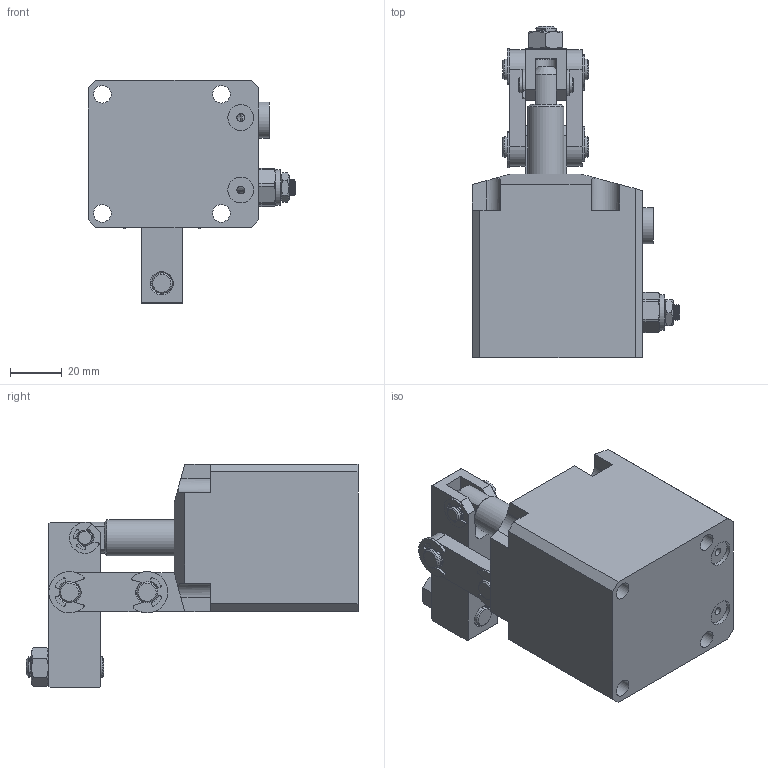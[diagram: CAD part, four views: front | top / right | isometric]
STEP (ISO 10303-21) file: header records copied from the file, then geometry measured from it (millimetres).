
FILE_DESCRIPTION(/* description */ ('STEP AP203'),/* implementation_level */ '2;1');
FILE_NAME(/* name */ 'D:\Vault_2016\Projekty\Clamptek\Hydraulic\CBLU\CBLU-35\STEP\CBLU-35CR.stp',/* time_stamp */ '2021-05-06T12:26:55+02:00',/* author */ ('user'),/* organization */ (''),/* preprocessor_version */ 'ST-DEVELOPER v18.1',/* originating_system */ 'Autodesk Inventor 2021',/* authorisation */ '');
FILE_SCHEMA (('AUTOMOTIVE_DESIGN { 1 0 10303 214 3 1 1 }'));
Length unit declared in the file: millimetre
Products named in the file (13): CBLU-35CR; ±¾ÌåCR_4; Áã¼þ2_1; »îÈû¸Ë_6_1; Á¬¸Ë_1; 35Ñ¹±Û; ¶ÌÏúÖá_1; ³¤ÏúÖá_1; e rings gb_GB_CONNECTING_PIECE_RINGS_HR 6_1; e rings gb_GB_CONNECTING_PIECE_RINGS_HR 8; hex nuts, style 1-grades ab gb_GB_FASTENER_NUT_SNAB1 M8-N; ÂÝË¿2; CZL10µ÷ËÙ·§_5
Assembly tree (18 placements, depth 2):
  CBLU-35CR
    ±¾ÌåCR_4
    Áã¼þ2_1
    »îÈû¸Ë_6_1
    Á¬¸Ë_1  x2
    35Ñ¹±Û
    ¶ÌÏúÖá_1
    ³¤ÏúÖá_1  x2
    e rings gb_GB_CONNECTING_PIECE_RINGS_HR 6_1  x2
    e rings gb_GB_CONNECTING_PIECE_RINGS_HR 8  x4
    hex nuts, style 1-grades ab gb_GB_FASTENER_NUT_SNAB1 M8-N
    ÂÝË¿2
    CZL10µ÷ËÙ·§_5
Bounding box: 80.3 x 128.3 x 86.5 mm (x, y, z)
Volume: 258726.1 mm3; surface area: 62944.1 mm2
Topology: 20 solids, 20 shells, 563 faces, 1465 edges, 959 vertices
Faces by surface type: cylinder 223, plane 210, cone 72, bspline 46, torus 12
Full cylindrical faces by diameter (mm): 1 x6, 1.6 x1, 2.5 x2, 3 x1, 3.3 x1, 3.8 x1, 4.917 x4, 5 x4, 5.6 x1, 6 x24, 6.1 x1, 6.647 x1, 6.8 x4, 7 x5, 8 x34, 8.7 x1, 8.8 x1, 9 x1, 10 x2, 12.6 x1, 12.7 x1, 13.8 x1, 14 x3, 35 x2
Entity records: 25749 total; most frequent: CARTESIAN_POINT 14439, ORIENTED_EDGE 2382, DIRECTION 2134, EDGE_CURVE 1191, AXIS2_PLACEMENT_3D 803, VERTEX_POINT 780, LINE 528, VECTOR 528
